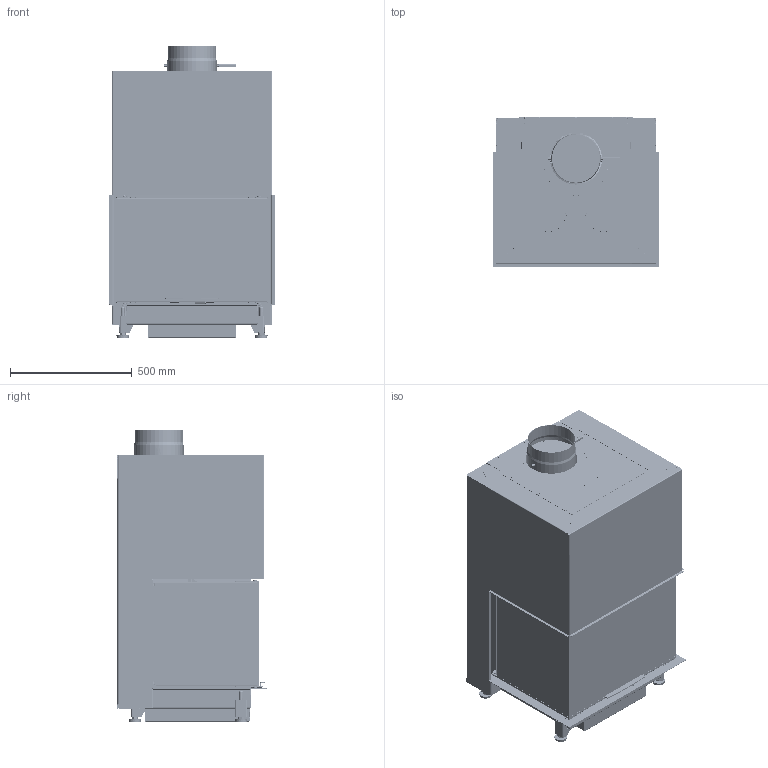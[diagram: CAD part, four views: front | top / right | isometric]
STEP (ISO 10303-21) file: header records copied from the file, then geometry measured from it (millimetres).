
FILE_DESCRIPTION(/* description */ (''),/* implementation_level */ '2;1');
FILE_NAME(/* name */ 'C:\ADSK_DM_WS\CAD_3D\03 Geraete\RIII 45x68x46\Zeichnungen\RIII 45x68x46 Gen.2 mit Mantel Abgang oben CAD Planung defriten 2021-03131 211124.stp',/* time_stamp */ '2021-11-24T10:14:02+01:00',/* author */ ('CPI'),/* organization */ (''),/* preprocessor_version */ 'ST-DEVELOPER v18.1',/* originating_system */ 'Autodesk Inventor 2022',/* authorisation */ '');
FILE_SCHEMA (('AUTOMOTIVE_DESIGN { 1 0 10303 214 3 1 1 }'));
Products named in the file (9): 2021-03131; 2021-03103; 2021-03107; 2021-0309; 2021-03111; 2021-03113; 2021-03069; 2018-00985; 2021-03127
Assembly tree (8 placements, depth 2):
  2021-03131
    2021-03103
    2021-03107
    2021-0309
    2021-03111
    2021-03113
    2021-03069
    2018-00985
    2021-03127
Bounding box: 680 x 613.5 x 1199.43 mm (x, y, z)
Volume: 32758654.1 mm3; surface area: 16098506.3 mm2
Topology: 23 solids, 37 shells, 8844 faces, 24628 edges, 15609 vertices
Faces by surface type: plane 5212, cylinder 3237, bspline 237, cone 97, torus 60, sphere 1
Full cylindrical faces by diameter (mm): 3.242 x6, 4.8 x1, 6 x3, 7.5 x8, 7.9 x2, 10 x10, 10.21 x4, 12 x4, 16 x10, 20 x4, 30 x4, 163 x1, 194 x1, 198 x1, 200 x1, 204 x1, 333 x1, 339 x1
Entity records: 297294 total; most frequent: CARTESIAN_POINT 61606, ORIENTED_EDGE 49200, DIRECTION 48303, EDGE_CURVE 24657, LINE 16225, VECTOR 16225, AXIS2_PLACEMENT_3D 16039, VERTEX_POINT 15613
